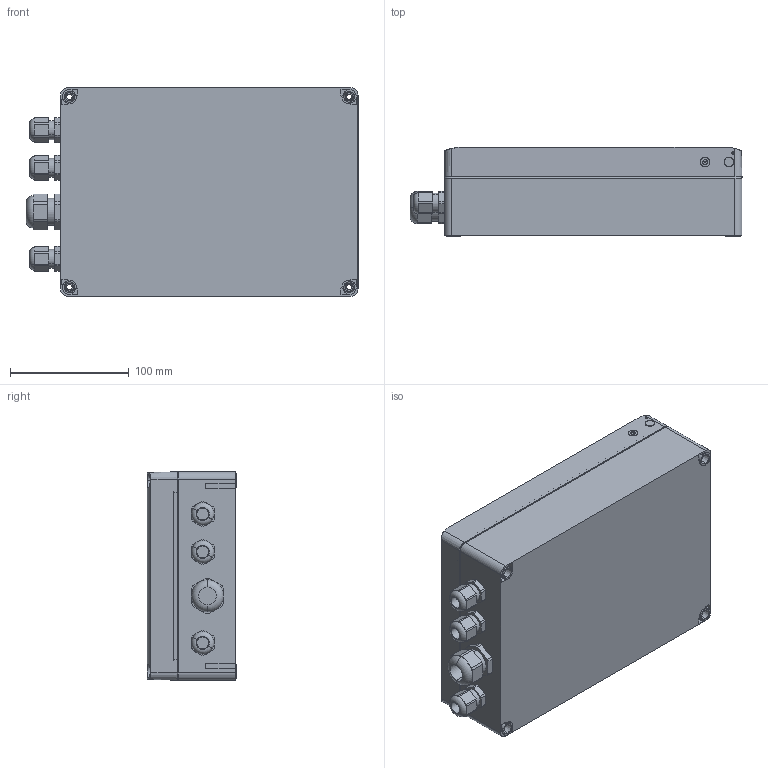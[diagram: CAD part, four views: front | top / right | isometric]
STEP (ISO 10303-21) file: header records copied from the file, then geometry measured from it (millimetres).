
FILE_DESCRIPTION (( 'STEP AP214' ), '1' );
FILE_NAME ('398V000_Steuerung_twist200_350_XL.STEP', '2018-05-03T11:13:55', ( '' ), ( '' ), 'SwSTEP 2.0', 'SolidWorks 2017', '' );
FILE_SCHEMA (( 'AUTOMOTIVE_DESIGN' ));
Length unit declared in the file: millimetre
Products named in the file (5): 30016_PG20_ohne Mutter 30018; 90202_Gehäuse_Unterteil_12274_12270; 90201_Gehäuse_Oberteil_12274_12270; 30015_Verschraubung_M16_FG_ohne Mutter 30017; 398V000_Steuerung_twist200_350_XL
Assembly tree (6 placements, depth 2):
  398V000_Steuerung_twist200_350_XL
    90202_Gehäuse_Unterteil_12274_12270
    90201_Gehäuse_Oberteil_12274_12270
    30015_Verschraubung_M16_FG_ohne Mutter 30017  x3
    30016_PG20_ohne Mutter 30018
Bounding box: 279 x 75 x 175 mm (x, y, z)
Volume: 253044.7 mm3; surface area: 336489.2 mm2
Topology: 5 solids, 6 shells, 1315 faces, 3598 edges, 2415 vertices
Faces by surface type: plane 775, cylinder 334, cone 130, bspline 68, torus 8
Entity records: 96880 total; most frequent: CARTESIAN_POINT 57277, ORIENTED_EDGE 6720, DIRECTION 4946, EDGE_CURVE 3382, VERTEX_POINT 2278, LINE 1770, VECTOR 1770, AXIS2_PLACEMENT_3D 1588
